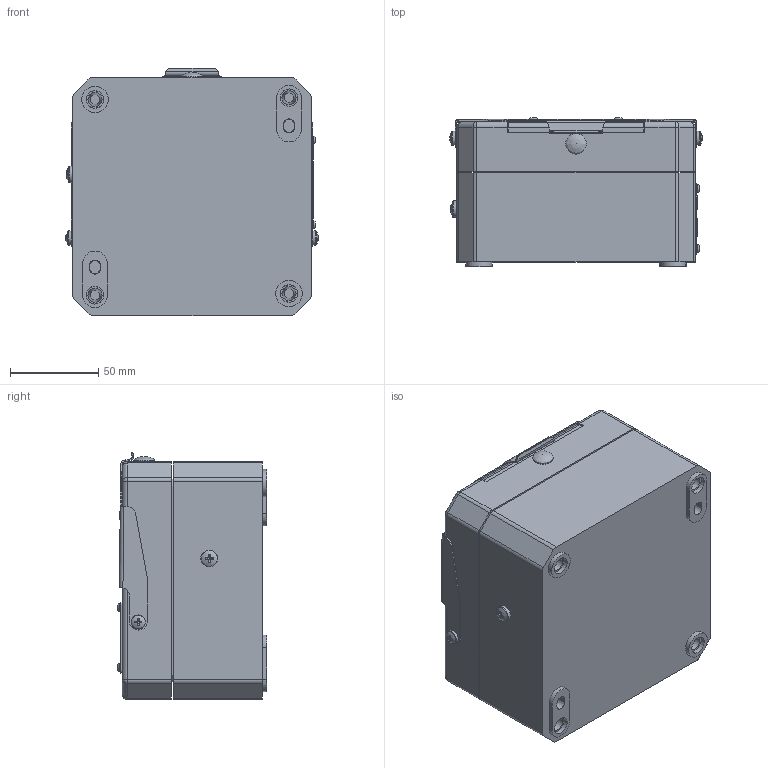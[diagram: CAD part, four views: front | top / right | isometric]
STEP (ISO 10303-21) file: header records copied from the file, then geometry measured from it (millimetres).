
FILE_DESCRIPTION (( 'STEP AP214' ), '1' );
FILE_NAME ('Moflash CP135.STEP', '2015-09-09T08:47:41', ( '' ), ( '' ), 'SwSTEP 2.0', 'SolidWorks 2015', '' );
FILE_SCHEMA (( 'AUTOMOTIVE_DESIGN' ));
Length unit declared in the file: millimetre
Products named in the file (1): Moflash CP135
Bounding box: 143.04 x 84.5 x 140.09 mm (x, y, z)
Volume: 1038671.7 mm3; surface area: 166086.4 mm2
Topology: 14 solids, 14 shells, 1113 faces, 2770 edges, 1788 vertices
Faces by surface type: plane 705, bspline 184, cylinder 132, cone 53, torus 28, sphere 11
Full cylindrical faces by diameter (mm): 3 x3, 4 x2, 4.5 x1, 5 x7, 5.2 x2, 5.5 x1, 8 x2, 8.5 x6, 9.5 x7, 10 x1, 11.6 x1, 15 x2, 20 x2
Entity records: 51885 total; most frequent: CARTESIAN_POINT 14500, ORIENTED_EDGE 5272, DIRECTION 4573, EDGE_CURVE 2636, VECTOR 1801, LINE 1801, VERTEX_POINT 1757, AXIS2_PLACEMENT_3D 1386
